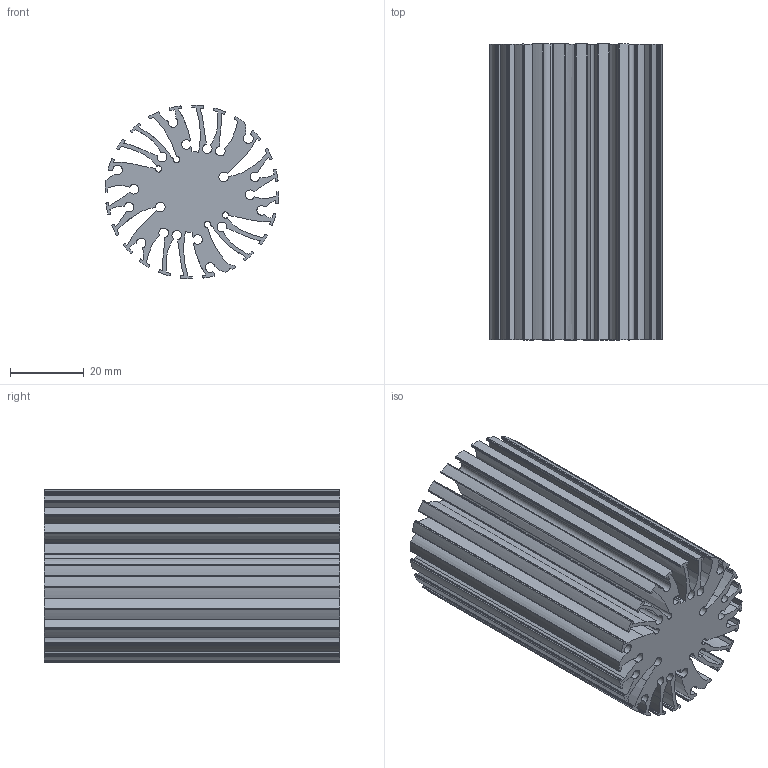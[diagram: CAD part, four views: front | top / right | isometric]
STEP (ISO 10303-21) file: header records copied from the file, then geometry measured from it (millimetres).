
FILE_DESCRIPTION (( 'STEP AP203' ), '1' );
FILE_NAME ('XSA-216.STEP', '2014-04-02T09:02:51', ( '' ), ( '' ), 'SwSTEP 2.0', 'SolidWorks 2013', '' );
FILE_SCHEMA (( 'CONFIG_CONTROL_DESIGN' ));
Length unit declared in the file: millimetre
Products named in the file (1): XSA-216
Bounding box: 47 x 80 x 47 mm (x, y, z)
Volume: 78046.4 mm3; surface area: 55960.7 mm2
Topology: 1 solids, 1 shells, 341 faces, 1017 edges, 678 vertices
Faces by surface type: cylinder 191, plane 119, bspline 31
Entity records: 13690 total; most frequent: CARTESIAN_POINT 4292, ORIENTED_EDGE 2034, DIRECTION 1950, EDGE_CURVE 1017, AXIS2_PLACEMENT_3D 693, VERTEX_POINT 678, VECTOR 564, LINE 564
